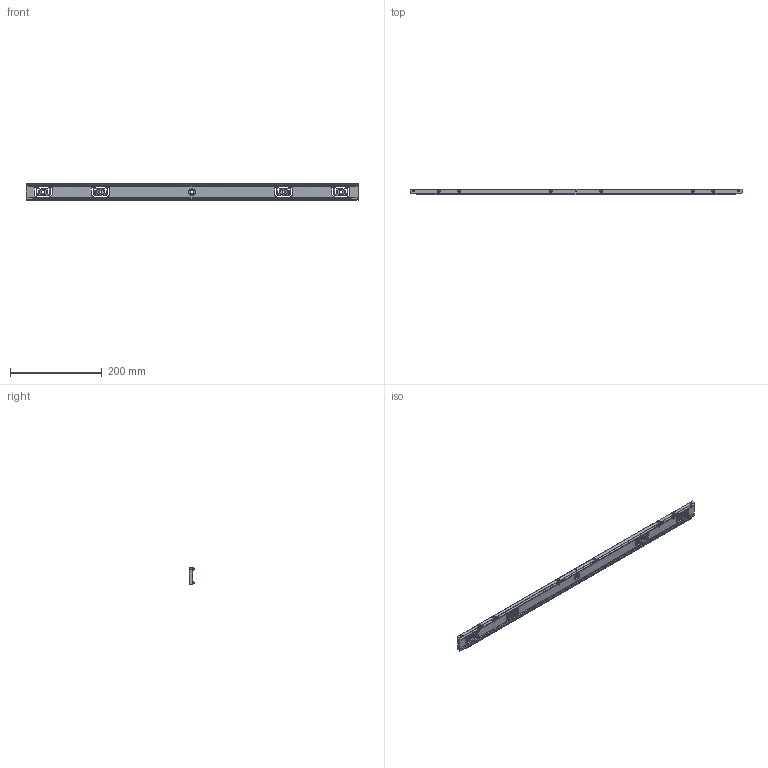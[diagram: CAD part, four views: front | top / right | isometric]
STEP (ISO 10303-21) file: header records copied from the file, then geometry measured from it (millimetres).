
FILE_DESCRIPTION(('Creo Elements/Direct Modeling STEP Export'),'2;1');
FILE_NAME('B3-620.stp','2020-10-30T12:55:53',(''),(''),'Creo Elements/Direct Modeling STEP processor for AP214 (Solid Model)','Creo Elements/Direct Modeling 19.0G 27-Nov-2017 (C) Parametric Technology GmbH','');
FILE_SCHEMA(('AUTOMOTIVE_DESIGN { 1 0 10303 214 1 1 1 1 }'));
Length unit declared in the file: millimetre
Products named in the file (2): PERFIL_SOPORTE_MECANIZADO_REGLA_SV3-620
Assembly tree (1 placements, depth 2):
  PERFIL_SOPORTE_MECANIZADO_REGLA_SV3-620
    PERFIL_SOPORTE_MECANIZADO_REGLA_SV3-620
Bounding box: 725 x 12.13 x 36.1 mm (x, y, z)
Volume: 171017.8 mm3; surface area: 93508.7 mm2
Topology: 1 solids, 1 shells, 1248 faces, 3674 edges, 2426 vertices
Faces by surface type: plane 686, cylinder 426, cone 88, torus 24, bspline 24
Entity records: 46397 total; most frequent: CARTESIAN_POINT 10202, ORIENTED_EDGE 7324, DIRECTION 6164, EDGE_CURVE 3662, VERTEX_POINT 2426, VECTOR 2080, LINE 2080, AXIS2_PLACEMENT_3D 2042
